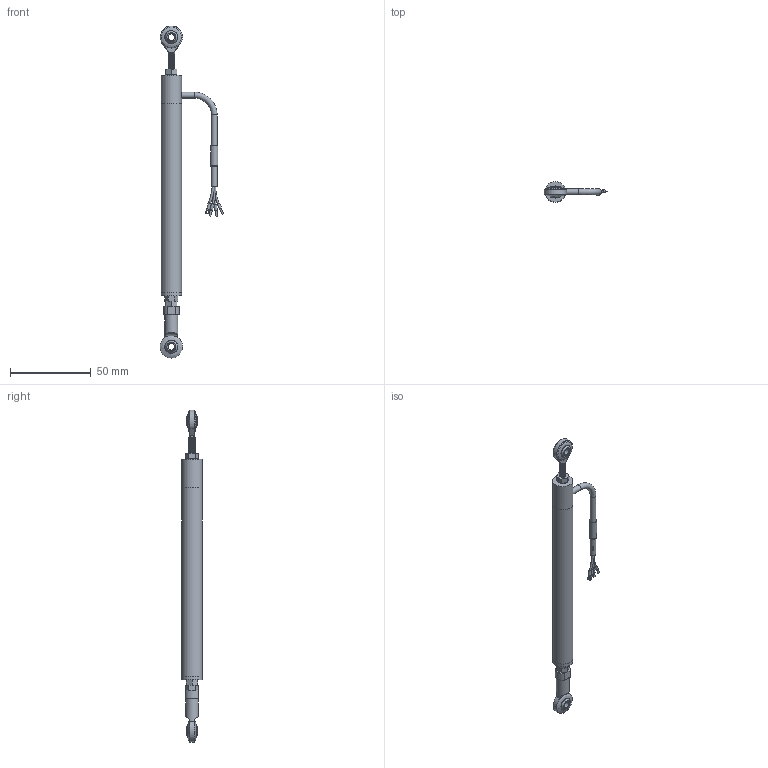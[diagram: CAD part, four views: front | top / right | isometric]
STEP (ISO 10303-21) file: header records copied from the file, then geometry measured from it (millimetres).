
FILE_DESCRIPTION(/* description */ (''),/* implementation_level */ '2;1');
FILE_NAME(/* name */ 'LPPS-12-075-R Assembly (wrapped).step',/* time_stamp */ '2023-10-10T14:07:55-04:00',/* author */ ('TSC_Grant'),/* organization */ (''),/* preprocessor_version */ 'ST-DEVELOPER v19.2',/* originating_system */ 'Autodesk Inventor 2024',/* authorisation */ '');
FILE_SCHEMA (('AUTOMOTIVE_DESIGN { 1 0 10303 214 3 1 1 }'));
Length unit declared in the file: inch
Products named in the file (4): LPPS-12-010-R Assembly (wrapped); LPPS-12-010-R Body (wrapped); LPPS-12-010-R Spoiler (wrapped); Wire
Assembly tree (3 placements, depth 2):
  LPPS-12-010-R Assembly (wrapped)
    LPPS-12-010-R Body (wrapped)
    LPPS-12-010-R Spoiler (wrapped)
    Wire
Bounding box: 39.48 x 12.7 x 205.7 mm (x, y, z)
Volume: 20290.5 mm3; surface area: 12286.3 mm2
Topology: 13 solids, 13 shells, 200 faces, 462 edges, 306 vertices
Faces by surface type: plane 94, cylinder 74, bspline 21, torus 7, sphere 4
Full cylindrical faces by diameter (mm): 1.016 x3, 1.27 x1, 1.524 x3, 1.651 x2, 3.632 x5, 3.937 x14, 4.14 x2, 4.191 x1, 4.445 x1, 6.604 x1, 8.001 x1, 12.7 x3
Entity records: 9550 total; most frequent: CARTESIAN_POINT 4681, ORIENTED_EDGE 924, DIRECTION 895, EDGE_CURVE 462, AXIS2_PLACEMENT_3D 345, VERTEX_POINT 306, EDGE_LOOP 228, LINE 205
